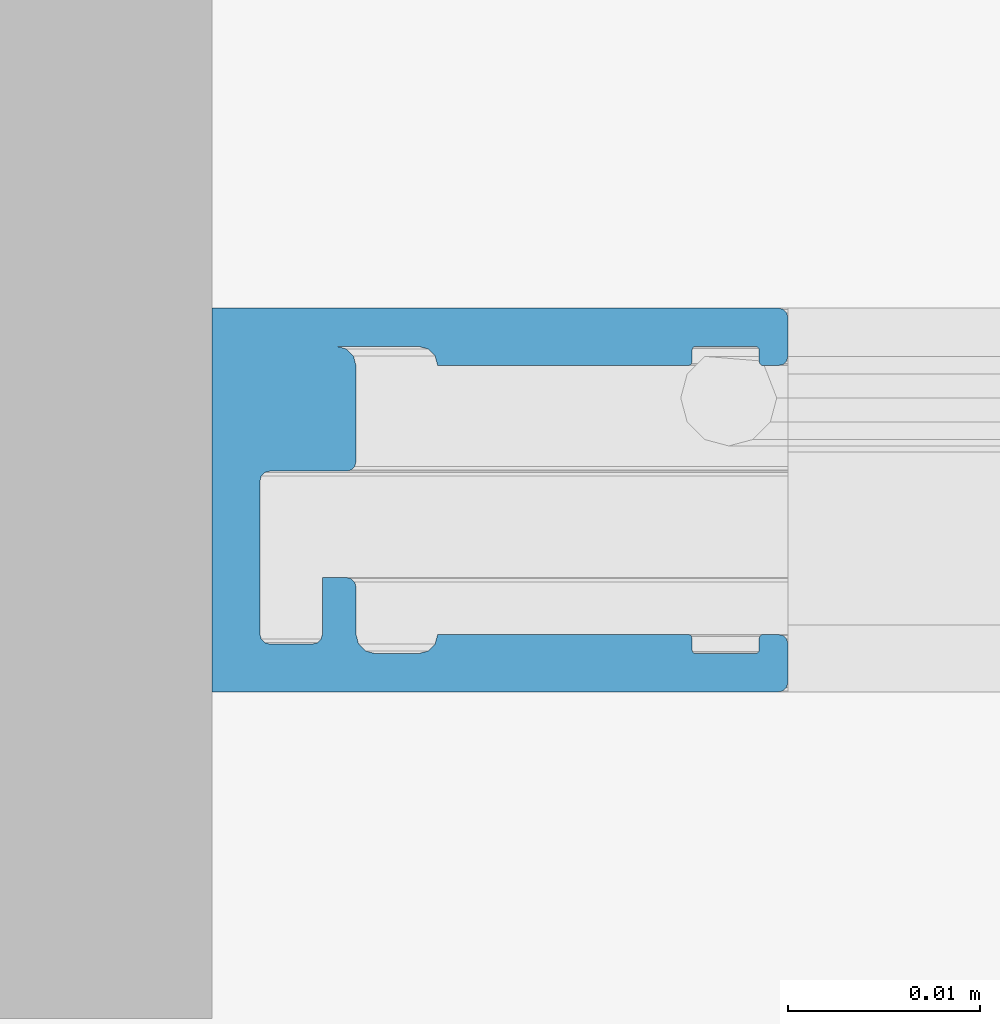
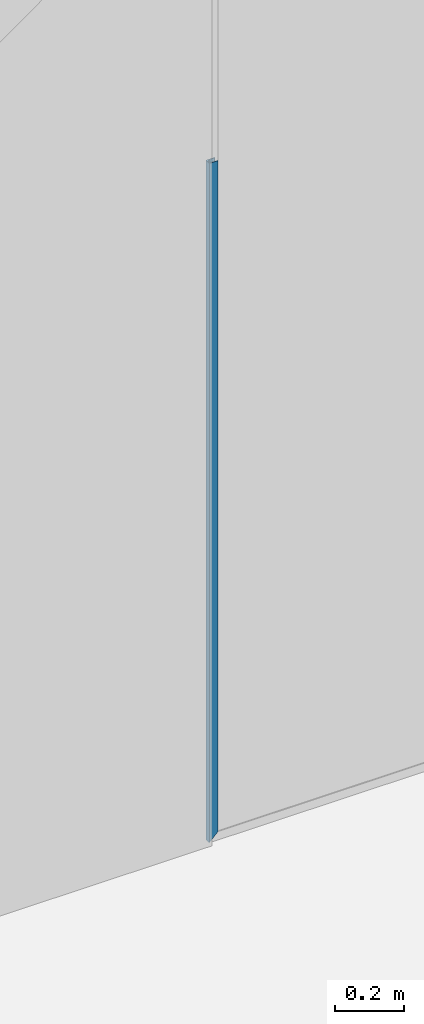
# One storey, part 38 of 387: 1 building element part, 2 elements without a shape of their own.
"""IFC2X3 building model written with IfcOpenShell, lengths in millimetres."""

from ifc_helpers import new_model, entity, si_unit, converted_unit, derived_unit, money_unit, direction, frame, origin_with_axes, place, context, subcontext, project, spatial, faceted_brep, source, transform, mapped, material, type_object, element, aggregate, save


model = new_model("IFC2X3")

# Units and contexts
model_context = context("Model", 3, precision=0.01, world=origin_with_axes(), true_north=direction((0.0, 1.0)))
body_context = subcontext(model_context, "Body", "Model", "MODEL_VIEW")
ifc_project = project(units=[si_unit("LENGTHUNIT", "METRE", prefix="MILLI"), si_unit("AREAUNIT", "SQUARE_METRE"), si_unit("VOLUMEUNIT", "CUBIC_METRE"), converted_unit("PLANEANGLEUNIT", "DEGREE", entity("IfcPlaneAngleMeasure", 0.0174532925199), si_unit("PLANEANGLEUNIT", "RADIAN"), dimensions=[0, 0, 0, 0, 0, 0, 0]), si_unit("SOLIDANGLEUNIT", "STERADIAN"), money_unit("EUR"), converted_unit("TIMEUNIT", "Year", entity("IfcTimeMeasure", 31556926.0), si_unit("TIMEUNIT", "SECOND"), dimensions=[0, 0, 1, 0, 0, 0, 0]), si_unit("MASSUNIT", "GRAM", prefix="KILO"), si_unit("THERMODYNAMICTEMPERATUREUNIT", "DEGREE_CELSIUS"), si_unit("LUMINOUSINTENSITYUNIT", "LUMEN"), si_unit("ENERGYUNIT", "JOULE", prefix="MEGA"), derived_unit("THERMALCONDUCTANCEUNIT", [(si_unit("POWERUNIT", "WATT"), 1), (si_unit("LENGTHUNIT", "METRE"), -1), (si_unit("THERMODYNAMICTEMPERATUREUNIT", "KELVIN"), -1)]), derived_unit("SPECIFICHEATCAPACITYUNIT", [(si_unit("ENERGYUNIT", "JOULE"), 1), (si_unit("MASSUNIT", "GRAM", prefix="KILO"), -1), (si_unit("THERMODYNAMICTEMPERATUREUNIT", "KELVIN"), -1)]), derived_unit("MASSDENSITYUNIT", [(si_unit("MASSUNIT", "GRAM", prefix="KILO"), 1), (si_unit("VOLUMEUNIT", "CUBIC_METRE"), -1)])], contexts=[model_context])

# Site, building, storey
site_placement = place(None, origin_with_axes())
site = spatial("IfcSite", under=ifc_project, at=site_placement, Name="Puškini 31, Narva", CompositionType="ELEMENT")
building_placement = place(site_placement, origin_with_axes())
building = spatial("IfcBuilding", under=site, at=building_placement, Name="Narva Riigigümnaasium", CompositionType="ELEMENT")
storey_placement = place(building_placement, frame((0.0, 0.0, 2640.0), z_axis=(0.0, 0.0, 1.0), x_axis=(1.0, 0.0, 0.0)))
storey = spatial("IfcBuildingStorey", under=building, at=storey_placement, Name="2.korrus +2.64", CompositionType="ELEMENT", Elevation=2640.0)

# Curtain wall, member, building element part
curtain_wall_type = type_object("IfcCurtainWallType", Name="Curtain Wall Type", PredefinedType="NOTDEFINED")
curtain_wall_placement = place(storey_placement, frame((29819.999977, 163516.999995, -2.6516426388e-05), z_axis=(0.0, 0.0, 1.0), x_axis=(1.0, 0.0, 0.0)))
curtain_wall = element("IfcCurtainWall", 1, at=curtain_wall_placement, inside=storey, type_object=curtain_wall_type, Name="G-SKLF-46")
member_type = type_object("IfcMemberType", Name="30 x 10", PredefinedType="MULLION")
member_placement = place(curtain_wall_placement, frame((-1419.99999997, 3.94777543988e-08, 0.0), z_axis=(0.0, 0.0, 1.0), x_axis=(1.0, 0.0, 0.0)))
member = element("IfcMember", 2, at=member_placement, type_object=member_type, Name="G-SKLF-49-raam", ObjectType="MULLION")
aggregate(curtain_wall, [member])
ifc_material = material(Name="ET-04_Alumiinium")
shared_shape = source(origin_with_axes(), body_context, "Body", "Brep", [
    faceted_brep([(0.0, -9.99999999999, 0.0), (0.0, -9.99999999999, 2400.00000922), (0.0, 9.99999999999, 2400.00000922), (0.0, 9.99999999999, 0.0), (29.4424074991, -9.99999999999, 29.4424074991), (29.4424074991, -9.99999999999, 2400.00000922), (29.7157683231, -9.95182408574, 2400.00000922), (29.9224245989, -9.76651288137, 2400.00000922), (30.0, -9.5, 2400.00000922), (30.0, -7.49999999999, 2400.00000922), (29.9330127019, -7.24999999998, 2400.00000922), (29.75, -7.06698729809, 2400.00000922), (29.5, -6.99999999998, 2400.00000922), (28.7, -6.99999999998, 2400.00000922), (28.6, -7.02679491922, 2400.00000922), (28.5267949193, -7.09999999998, 2400.00000922), (28.5, -7.19999999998, 2400.00000922), (28.5, -7.79999999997, 2400.00000922), (28.4732050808, -7.89999999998, 2400.00000922), (28.4, -7.97320508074, 2400.00000922), (28.3, -7.99999999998, 2400.00000922), (25.2, -7.99999999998, 2400.00000922), (25.1, -7.97320508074, 2400.00000922), (25.0267949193, -7.89999999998, 2400.00000922), (25.0, -7.79999999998, 2400.00000922), (25.0, -7.20000000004, 2400.00000922), (24.9732050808, -7.10000000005, 2400.00000922), (24.9, -7.02679491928, 2400.00000922), (24.8, -7.00000000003, 2400.00000922), (11.7527616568, -6.99999999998, 2400.00000922), (11.6187870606, -7.49999999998, 2400.00000922), (11.2527616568, -7.86602540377, 2400.00000922), (10.7527616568, -7.99999999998, 2400.00000922), (8.49999999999, -8.00000000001, 2400.00000922), (7.99999999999, -7.86602540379, 2400.00000922), (7.63397459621, -7.50000000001, 2400.00000922), (7.49999999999, -7.00000000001, 2400.00000922), (7.49999999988, -4.5336921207, 2400.00000922), (7.43301270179, -4.28369212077, 2400.00000922), (7.24999999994, -4.10067941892, 2400.00000922), (7.0, -4.03369212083, 2400.00000922), (5.74723834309, -4.03369212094, 2400.00000922), (5.7472383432, -6.99999999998, 2400.00000922), (5.6802510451, -7.24999999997, 2400.00000922), (5.49723834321, -7.43301270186, 2400.00000922), (5.24723834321, -7.49999999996, 2400.00000922), (3.0, -7.49999999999, 2400.00000922), (2.75, -7.43301270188, 2400.00000922), (2.56698729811, -7.24999999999, 2400.00000922), (2.5, -6.99999999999, 2400.00000922), (2.5, 1.00339466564, 2400.00000922), (2.56811176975, 1.25195735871, 2400.00000922), (2.75096907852, 1.43357737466, 2400.00000922), (2.99998847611, 1.50000000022, 2400.00000922), (6.99999999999, 1.50000000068, 2400.00000922), (7.24999999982, 1.56698729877, 2400.00000922), (7.43301270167, 1.75000000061, 2400.00000922), (7.49999999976, 2.00000000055, 2400.00000922), (7.49999999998, 6.99999999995, 2400.00000922), (7.36602540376, 7.49999999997, 2400.00000922), (6.99999999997, 7.86602540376, 2400.00000922), (6.49999999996, 7.99999999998, 2400.00000922), (10.7527616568, 7.99999999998, 2400.00000922), (11.2527616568, 7.86602540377, 2400.00000922), (11.6187870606, 7.49999999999, 2400.00000922), (11.7527616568, 6.99999999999, 2400.00000922), (24.8, 7.00000000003, 2400.00000922), (24.9, 7.02679491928, 2400.00000922), (24.9732050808, 7.10000000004, 2400.00000922), (25.0, 7.20000000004, 2400.00000922), (25.0, 7.8, 2400.00000922), (25.0267949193, 7.90000000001, 2400.00000922), (25.1, 7.97320508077, 2400.00000922), (25.2, 8.00000000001, 2400.00000922), (28.3, 8.00000000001, 2400.00000922), (28.4104265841, 7.9658128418, 2400.00000922), (28.4849473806, 7.87744178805, 2400.00000922), (28.5, 7.76282847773, 2400.00000922), (28.5, 7.24760028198, 2400.00000922), (28.5, 7.19999999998, 2400.00000922), (28.5267949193, 7.09999999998, 2400.00000922), (28.6, 7.02679491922, 2400.00000922), (28.7, 6.99999999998, 2400.00000922), (28.7609519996, 6.99999999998, 2400.00000922), (29.5, 7.00000000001, 2400.00000922), (29.75, 7.06698729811, 2400.00000922), (29.9330127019, 7.24999999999, 2400.00000922), (30.0, 7.49999999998, 2400.00000922), (30.0, 9.5, 2400.00000922), (29.9330127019, 9.75000000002, 2400.00000922), (29.75, 9.93301270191, 2400.00000922), (29.5, 10.0, 2400.00000922), (29.5, 10.0, 29.5), (29.75, 9.93301270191, 29.75), (29.9330127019, 9.75000000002, 29.9330127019), (30.0, 9.5, 30.0), (30.0, 7.49999999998, 30.0), (29.9330127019, 7.24999999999, 29.9330127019), (29.75, 7.06698729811, 29.75), (29.5, 7.00000000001, 29.5), (28.7609519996, 6.99999999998, 28.7609519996), (28.7, 6.99999999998, 28.7), (28.6, 7.02679491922, 28.6), (28.5267949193, 7.09999999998, 28.5267949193), (28.5, 7.19999999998, 28.5), (28.5, 7.24760028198, 28.5), (28.5, 7.76282847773, 28.5), (28.4849473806, 7.87744178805, 28.4849473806), (28.4104265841, 7.9658128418, 28.4104265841), (28.3, 8.00000000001, 28.3), (25.2, 8.00000000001, 25.2), (25.1, 7.97320508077, 25.1), (25.0267949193, 7.90000000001, 25.0267949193), (25.0, 7.8, 25.0), (25.0, 7.20000000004, 25.0), (24.9732050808, 7.10000000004, 24.9732050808), (24.9, 7.02679491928, 24.9), (24.8, 7.00000000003, 24.8), (11.7527616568, 6.99999999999, 11.7527616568), (11.6187870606, 7.49999999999, 11.6187870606), (11.2527616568, 7.86602540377, 11.2527616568), (10.7527616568, 7.99999999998, 10.7527616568), (6.49999999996, 7.99999999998, 6.49999999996), (6.99999999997, 7.86602540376, 6.99999999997), (7.36602540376, 7.49999999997, 7.36602540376), (7.49999999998, 6.99999999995, 7.49999999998), (7.49999999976, 2.00000000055, 7.49999999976), (7.43301270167, 1.75000000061, 7.43301270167), (7.24999999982, 1.56698729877, 7.24999999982), (6.99999999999, 1.50000000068, 6.99999999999), (2.99998847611, 1.50000000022, 2.99998847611), (2.75096907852, 1.43357737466, 2.75096907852), (2.56811176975, 1.25195735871, 2.56811176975), (2.5, 1.00339466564, 2.5), (2.5, -6.99999999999, 2.5), (2.56698729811, -7.24999999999, 2.56698729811), (2.75, -7.43301270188, 2.75), (3.0, -7.49999999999, 3.0), (5.24723834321, -7.49999999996, 5.24723834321), (5.49723834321, -7.43301270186, 5.49723834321), (5.6802510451, -7.24999999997, 5.6802510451), (5.7472383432, -6.99999999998, 5.7472383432), (5.74723834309, -4.03369212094, 5.74723834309), (7.0, -4.03369212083, 7.0), (7.24999999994, -4.10067941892, 7.24999999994), (7.43301270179, -4.28369212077, 7.43301270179), (7.49999999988, -4.5336921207, 7.49999999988), (7.49999999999, -7.00000000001, 7.49999999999), (7.63397459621, -7.50000000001, 7.63397459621), (7.99999999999, -7.86602540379, 7.99999999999), (8.49999999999, -8.00000000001, 8.49999999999), (10.7527616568, -7.99999999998, 10.7527616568), (11.2527616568, -7.86602540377, 11.2527616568), (11.6187870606, -7.49999999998, 11.6187870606), (11.7527616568, -6.99999999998, 11.7527616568), (24.8, -7.00000000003, 24.8), (24.9, -7.02679491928, 24.9), (24.9732050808, -7.10000000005, 24.9732050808), (25.0, -7.20000000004, 25.0), (25.0, -7.79999999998, 25.0), (25.0267949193, -7.89999999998, 25.0267949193), (25.1, -7.97320508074, 25.1), (25.2, -7.99999999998, 25.2), (28.3, -7.99999999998, 28.3), (28.4, -7.97320508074, 28.4), (28.4732050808, -7.89999999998, 28.4732050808), (28.5, -7.79999999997, 28.5), (28.5, -7.19999999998, 28.5), (28.5267949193, -7.09999999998, 28.5267949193), (28.6, -7.02679491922, 28.6), (28.7, -6.99999999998, 28.7), (29.5, -6.99999999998, 29.5), (29.75, -7.06698729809, 29.75), (29.9330127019, -7.24999999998, 29.9330127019), (30.0, -7.49999999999, 30.0), (30.0, -9.5, 30.0), (29.9224245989, -9.76651288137, 29.9224245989), (29.7157683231, -9.95182408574, 29.7157683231)], [[[0, 1, 2, 3]], [[4, 5, 1, 0]], [[2, 1, 5, 6, 7, 8, 9, 10, 11, 12, 13, 14, 15, 16, 17, 18, 19, 20, 21, 22, 23, 24, 25, 26, 27, 28, 29, 30, 31, 32, 33, 34, 35, 36, 37, 38, 39, 40, 41, 42, 43, 44, 45, 46, 47, 48, 49, 50, 51, 52, 53, 54, 55, 56, 57, 58, 59, 60, 61, 62, 63, 64, 65, 66, 67, 68, 69, 70, 71, 72, 73, 74, 75, 76, 77, 78, 79, 80, 81, 82, 83, 84, 85, 86, 87, 88, 89, 90, 91]], [[3, 2, 91, 92]], [[3, 92, 93, 94, 95, 96, 97, 98, 99, 100, 101, 102, 103, 104, 105, 106, 107, 108, 109, 110, 111, 112, 113, 114, 115, 116, 117, 118, 119, 120, 121, 122, 123, 124, 125, 126, 127, 128, 129, 130, 131, 132, 133, 134, 135, 136, 137, 138, 139, 140, 141, 142, 143, 144, 145, 146, 147, 148, 149, 150, 151, 152, 153, 154, 155, 156, 157, 158, 159, 160, 161, 162, 163, 164, 165, 166, 167, 168, 169, 170, 171, 172, 173, 174, 175, 176, 177, 4, 0]], [[177, 6, 5, 4]], [[176, 7, 6, 177]], [[175, 8, 7, 176]], [[174, 9, 8, 175]], [[173, 10, 9, 174]], [[172, 11, 10, 173]], [[171, 12, 11, 172]], [[170, 13, 12, 171]], [[169, 14, 13, 170]], [[168, 15, 14, 169]], [[167, 16, 15, 168]], [[166, 17, 16, 167]], [[165, 18, 17, 166]], [[164, 19, 18, 165]], [[163, 20, 19, 164]], [[162, 21, 20, 163]], [[161, 22, 21, 162]], [[160, 23, 22, 161]], [[159, 24, 23, 160]], [[158, 25, 24, 159]], [[157, 26, 25, 158]], [[156, 27, 26, 157]], [[155, 28, 27, 156]], [[154, 29, 28, 155]], [[153, 30, 29, 154]], [[152, 31, 30, 153]], [[151, 32, 31, 152]], [[150, 33, 32, 151]], [[149, 34, 33, 150]], [[148, 35, 34, 149]], [[147, 36, 35, 148]], [[146, 37, 36, 147]], [[145, 38, 37, 146]], [[144, 39, 38, 145]], [[143, 40, 39, 144]], [[142, 41, 40, 143]], [[141, 42, 41, 142]], [[140, 43, 42, 141]], [[139, 44, 43, 140]], [[138, 45, 44, 139]], [[137, 46, 45, 138]], [[136, 47, 46, 137]], [[135, 48, 47, 136]], [[134, 49, 48, 135]], [[133, 50, 49, 134]], [[132, 51, 50, 133]], [[131, 52, 51, 132]], [[130, 53, 52, 131]], [[129, 54, 53, 130]], [[128, 55, 54, 129]], [[127, 56, 55, 128]], [[126, 57, 56, 127]], [[125, 58, 57, 126]], [[124, 59, 58, 125]], [[123, 60, 59, 124]], [[122, 61, 60, 123]], [[121, 62, 61, 122]], [[120, 63, 62, 121]], [[119, 64, 63, 120]], [[118, 65, 64, 119]], [[117, 66, 65, 118]], [[116, 67, 66, 117]], [[115, 68, 67, 116]], [[114, 69, 68, 115]], [[113, 70, 69, 114]], [[112, 71, 70, 113]], [[111, 72, 71, 112]], [[110, 73, 72, 111]], [[109, 74, 73, 110]], [[108, 75, 74, 109]], [[107, 76, 75, 108]], [[106, 77, 76, 107]], [[105, 78, 77, 106]], [[104, 79, 78, 105]], [[103, 80, 79, 104]], [[102, 81, 80, 103]], [[101, 82, 81, 102]], [[100, 83, 82, 101]], [[99, 84, 83, 100]], [[98, 85, 84, 99]], [[97, 86, 85, 98]], [[96, 87, 86, 97]], [[95, 88, 87, 96]], [[94, 89, 88, 95]], [[93, 90, 89, 94]], [[92, 91, 90, 93]]]),
])
building_element_part_placement = place(member_placement, origin_with_axes())
building_element_part = element("IfcBuildingElementPart", 3, at=building_element_part_placement, material=ifc_material, Name="ET-04_Alumiinium", context=body_context, shape_type="MappedRepresentation", body=[
    mapped(shared_shape, transform((0.0, 0.0, 0.0))),
])
aggregate(member, [building_element_part])

save(model, "model.ifc")
